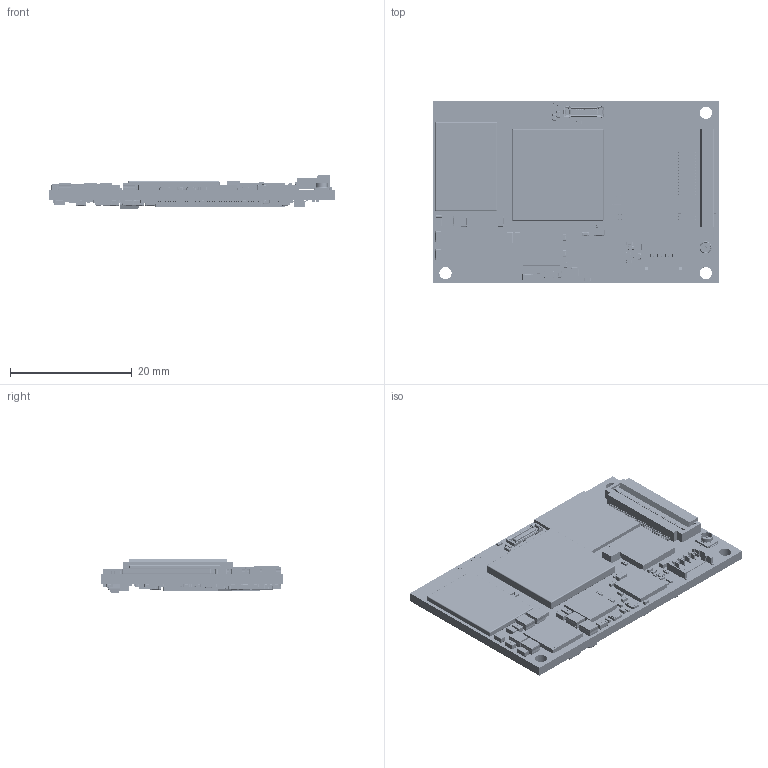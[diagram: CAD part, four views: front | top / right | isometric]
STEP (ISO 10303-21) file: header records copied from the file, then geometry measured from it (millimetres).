
FILE_DESCRIPTION(('STEP AP214'),'1');
FILE_NAME('SOM IMX8M-Plus-rev1.2_BoardAndModels.step','2021-03-23T15:02:18',(' '),(' '),'Spatial InterOp 3D','XD3DPlugin XRACreate',' ');
FILE_SCHEMA(('automotive_design'));
Length unit declared in the file: millimetre
Products named in the file (136): Submodel-E:\SolidRun-3D\3D-temp-SOM IMX8M-Plus-rev1.2\PCB\Layout\3D\Input_S\CAP-LLL15-0.5x1mm.xtd; CAP-LLL15-0.5x1mm; Submodel-CN00011_part_simplified_CAP-LLL15-0.5x1mm; DesignRootModel; Submodel-E:\SolidRun-3D\3D-temp-SOM IMX8M-Plus-rev1.2\PCB\Layout\3D\Input_S\RES0402.xtd; RES0402; Submodel-RE20538_part_simplified_0402_rnd; Submodel-E:\SolidRun-3D\3D-temp-SOM IMX8M-Plus-rev1.2\PCB\Layout\3D\Input_S\C0510X6S0G104M.xtd; C0510X6S0G104M; Submodel-CN00008_part_simplified_CAP-LLL15-0.5x1mm; Submodel-E:\SolidRun-3D\3D-temp-SOM IMX8M-Plus-rev1.2\PCB\Layout\3D\Input_S\0402-h-20-Kemet.xtd; 0402-h-20-Kemet; Submodel-CA20800_part_simplified_0402_rnd; Submodel-CA20131_part_simplified_0402_rnd; Submodel-E:\SolidRun-3D\3D-temp-SOM IMX8M-Plus-rev1.2\PCB\Layout\3D\Input_S\0402RES.xtd; 0402RES; Submodel-RE20013_part_simplified_0402_rnd; Submodel-RE20482_part_simplified_0402_rnd; Submodel-E:\SolidRun-3D\3D-temp-SOM IMX8M-Plus-rev1.2\PCB\Layout\3D\Input_S\0402-ind.xtd; 0402-ind; Submodel-IN00120_part_simplified_0402_rnd; Submodel-RE20487_part_simplified_0402_rnd; Submodel-E:\SolidRun-3D\3D-temp-SOM IMX8M-Plus-rev1.2\PCB\Layout\3D\Input_S\DF40C-80DP.xtd; DF40C-80DP; Submodel-CO00036_part_simplified_DF40C-80DP-0.4V; Submodel-RE20497_part_simplified_0402_rnd; Submodel-E:\SolidRun-3D\3D-temp-SOM IMX8M-Plus-rev1.2\PCB\Layout\3D\Input_S\BM23FR0.6-24DS-0.35V.xtd; BM23FR0.6-24DS-0.35V; Submodel-CO00801_part_simplified_BM23FR0.6-24DS-0.35V; Submodel-RE20029_part_simplified_0402_rnd; Submodel-RE20032_part_simplified_0402_rnd; Submodel-E:\SolidRun-3D\3D-temp-SOM IMX8M-Plus-rev1.2\PCB\Layout\3D\Input_S\DF57H-4P-1.2V.xtd; DF57H-4P-1.2V; Submodel-CO00799_part_simplified_DF57H-4P-1.2V; Submodel-E:\SolidRun-3D\3D-temp-SOM IMX8M-Plus-rev1.2\PCB\Layout\3D\Input_S\X2SON08_pitch 0.35.xtd; X2SON08_pitch 0.35; Submodel-IC01488_part_simplified_X2SON8-SOT1986-1; Submodel-E:\SolidRun-3D\3D-temp-SOM IMX8M-Plus-rev1.2\PCB\Layout\3D\Input_S\IND-VLS252012HBX.xtd; IND-VLS252012HBX; Submodel-IN00122_part_simplified_IND-VLS252012HBX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
Assembly tree (377 placements, depth 6):
  SOM IMX8M-Plus-rev1.2_BoardAndModels
    DesignRootModel
      Submodel-CN00011_part_simplified_CAP-LLL15-0.5x1mm  x58
        Submodel-E:\SolidRun-3D\3D-temp-SOM IMX8M-Plus-rev1.2\PCB\Layout\3D\Input_S\CAP-LLL15-0.5x1mm.xtd
          CAP-LLL15-0.5x1mm
      Submodel-RE20538_part_simplified_0402_rnd  x2
        Submodel-E:\SolidRun-3D\3D-temp-SOM IMX8M-Plus-rev1.2\PCB\Layout\3D\Input_S\RES0402.xtd
          RES0402
      Submodel-CN00008_part_simplified_CAP-LLL15-0.5x1mm  x9
        Submodel-E:\SolidRun-3D\3D-temp-SOM IMX8M-Plus-rev1.2\PCB\Layout\3D\Input_S\C0510X6S0G104M.xtd
          C0510X6S0G104M
      Submodel-CA20800_part_simplified_0402_rnd  x9
        Submodel-E:\SolidRun-3D\3D-temp-SOM IMX8M-Plus-rev1.2\PCB\Layout\3D\Input_S\0402-h-20-Kemet.xtd
          0402-h-20-Kemet
      Submodel-CA20131_part_simplified_0402_rnd  x13
        Submodel-E:\SolidRun-3D\3D-temp-SOM IMX8M-Plus-rev1.2\PCB\Layout\3D\Input_S\0402-h-20-Kemet.xtd
          0402-h-20-Kemet
      Submodel-RE20013_part_simplified_0402_rnd  x28
        Submodel-E:\SolidRun-3D\3D-temp-SOM IMX8M-Plus-rev1.2\PCB\Layout\3D\Input_S\0402RES.xtd
          0402RES
      Submodel-RE20482_part_simplified_0402_rnd  x5
        Submodel-E:\SolidRun-3D\3D-temp-SOM IMX8M-Plus-rev1.2\PCB\Layout\3D\Input_S\0402RES.xtd
          0402RES
      Submodel-IN00120_part_simplified_0402_rnd  x2
        Submodel-E:\SolidRun-3D\3D-temp-SOM IMX8M-Plus-rev1.2\PCB\Layout\3D\Input_S\0402-ind.xtd
          0402-ind
      Submodel-RE20487_part_simplified_0402_rnd  x2
        Submodel-E:\SolidRun-3D\3D-temp-SOM IMX8M-Plus-rev1.2\PCB\Layout\3D\Input_S\0402RES.xtd
          0402RES
      Submodel-CO00036_part_simplified_DF40C-80DP-0.4V  x2
        Submodel-E:\SolidRun-3D\3D-temp-SOM IMX8M-Plus-rev1.2\PCB\Layout\3D\Input_S\DF40C-80DP.xtd
          DF40C-80DP
      Submodel-RE20497_part_simplified_0402_rnd  x11
        Submodel-E:\SolidRun-3D\3D-temp-SOM IMX8M-Plus-rev1.2\PCB\Layout\3D\Input_S\0402RES.xtd
          0402RES
      Submodel-CO00801_part_simplified_BM23FR0.6-24DS-0.35V
        Submodel-E:\SolidRun-3D\3D-temp-SOM IMX8M-Plus-rev1.2\PCB\Layout\3D\Input_S\BM23FR0.6-24DS-0.35V.xtd
          BM23FR0.6-24DS-0.35V
      Submodel-RE20029_part_simplified_0402_rnd  x2
        Submodel-E:\SolidRun-3D\3D-temp-SOM IMX8M-Plus-rev1.2\PCB\Layout\3D\Input_S\0402RES.xtd
          0402RES
      Submodel-RE20032_part_simplified_0402_rnd  x2
        Submodel-E:\SolidRun-3D\3D-temp-SOM IMX8M-Plus-rev1.2\PCB\Layout\3D\Input_S\RES0402.xtd
          RES0402
      Submodel-CO00799_part_simplified_DF57H-4P-1.2V
        Submodel-E:\SolidRun-3D\3D-temp-SOM IMX8M-Plus-rev1.2\PCB\Layout\3D\Input_S\DF57H-4P-1.2V.xtd
          DF57H-4P-1.2V
      Submodel-IC01488_part_simplified_X2SON8-SOT1986-1  x2
        Submodel-E:\SolidRun-3D\3D-temp-SOM IMX8M-Plus-rev1.2\PCB\Layout\3D\Input_S\X2SON08_pitch 0.35.xtd
          X2SON08_pitch 0.35
      Submodel-IN00122_part_simplified_IND-VLS252012HBX  x6
        Submodel-E:\SolidRun-3D\3D-temp-SOM IMX8M-Plus-rev1.2\PCB\Layout\3D\Input_S\IND-VLS252012HBX.xtd
          IND-VLS252012HBX
      Submodel-CO00037_part_simplified_DF40C-70DP-0.4V
        Submodel-E:\SolidRun-3D\3D-temp-SOM IMX8M-Plus-rev1.2\PCB\Layout\3D\Input_S\DF40C-70DP.xtd
          DF40C-70DP
      Submodel-CA20016_part_simplified_0402_rnd  x10
        Submodel-E:\SolidRun-3D\3D-temp-SOM IMX8M-Plus-rev1.2\PCB\Layout\3D\Input_S\0402-h-20-Kemet.xtd
          0402-h-20-Kemet
      Submodel-CA20080_part_simplified_0402_rnd  x4
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Bounding box: 47 x 30 x 5.57 mm (x, y, z)
Volume: 3271.7 mm3; surface area: 7624.7 mm2
Topology: 1454 solids, 1458 shells, 41744 faces, 103103 edges, 61137 vertices
Faces by surface type: plane 22842, cylinder 11547, sphere 4218, bspline 2237, torus 828, cone 72
Full cylindrical faces by diameter (mm): 0.044 x2, 0.067 x1, 0.088 x1, 0.305 x2, 2 x3
Entity records: 335085 total; most frequent: CARTESIAN_POINT 54555, ORIENTED_EDGE 42264, DIRECTION 41708, EDGE_CURVE 21132, LINE 16140, VECTOR 16140, VERTEX_POINT 13917, AXIS2_PLACEMENT_3D 12784
